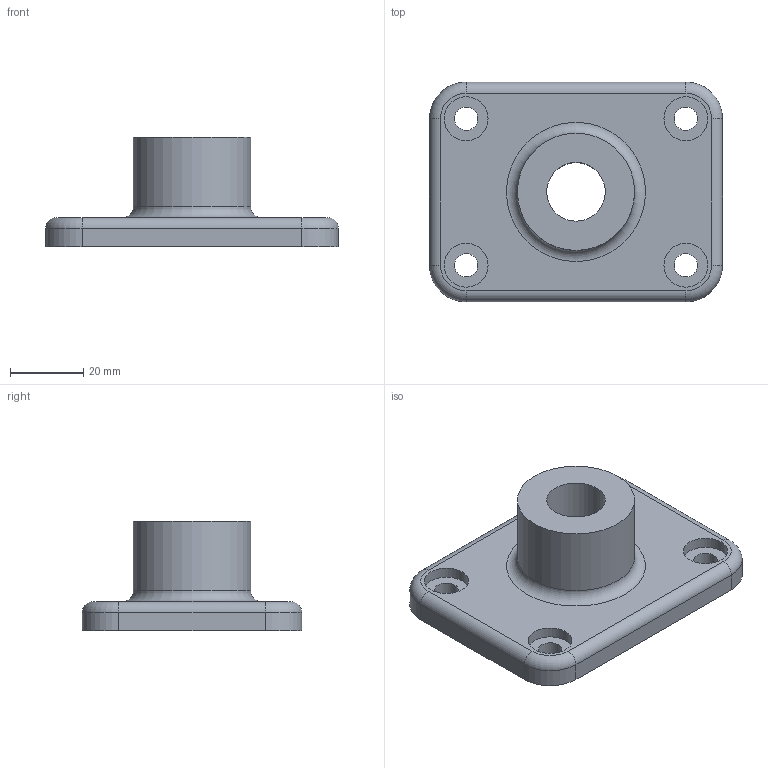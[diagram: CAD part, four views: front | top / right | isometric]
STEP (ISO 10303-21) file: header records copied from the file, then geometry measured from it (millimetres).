
FILE_DESCRIPTION(('Open CASCADE Model'),'2;1');
FILE_NAME('Open CASCADE Shape Model','2026-07-03T22:41:14',('Author'),( 'Open CASCADE'),'Open CASCADE STEP processor 7.9','build123d', 'Unknown');
FILE_SCHEMA(('AUTOMOTIVE_DESIGN { 1 0 10303 214 1 1 1 1 }'));
Length unit declared in the file: millimetre
Products named in the file (1): COMPOUND
Bounding box: 80 x 60 x 30 mm (x, y, z)
Volume: 47077.1 mm3; surface area: 14977.8 mm2
Topology: 1 solids, 1 shells, 34 faces, 72 edges, 45 vertices
Faces by surface type: cylinder 18, plane 11, torus 5
Full cylindrical faces by diameter (mm): 6.4 x4, 12 x4, 16 x1, 32 x1
Entity records: 1922 total; most frequent: CARTESIAN_POINT 410, DIRECTION 294, ORIENTED_EDGE 144, PCURVE 144, DEFINITIONAL_REPRESENTATION 144, LINE 128, VECTOR 128, AXIS2_PLACEMENT_3D 77
